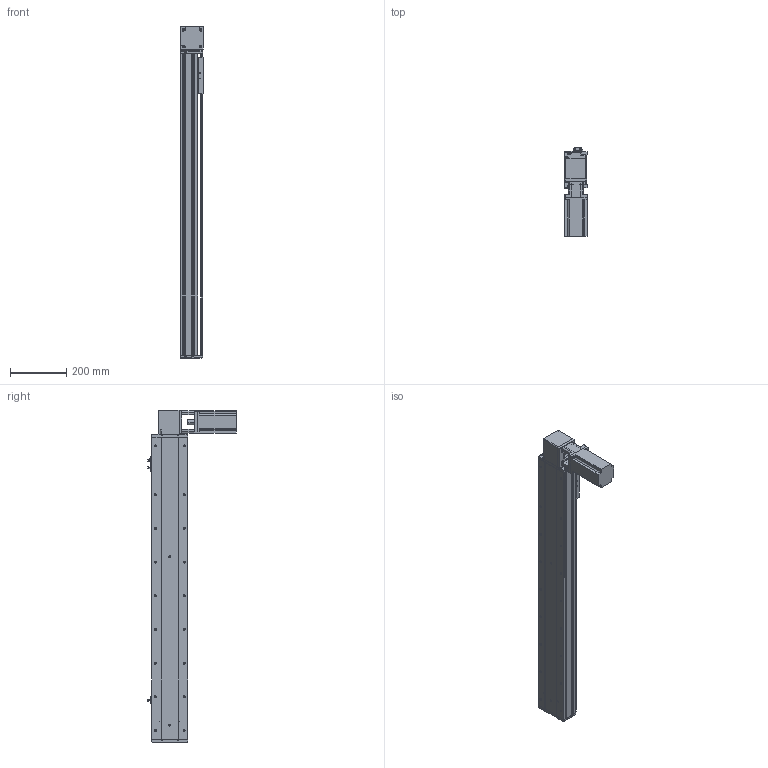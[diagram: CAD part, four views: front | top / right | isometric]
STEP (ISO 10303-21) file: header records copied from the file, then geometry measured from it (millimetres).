
FILE_DESCRIPTION (( 'STEP AP214' ), '1' );
FILE_NAME ('KSD130B-S850-MRT-CM.STEP', '2019-11-16T03:18:22', ( '微软用户' ), ( '微软中国' ), 'SwSTEP 2.0', 'SolidWorks 2014', '' );
FILE_SCHEMA (( 'AUTOMOTIVE_DESIGN' ));
Length unit declared in the file: millimetre
Products named in the file (12): 130宽马达安装板同步带半封闭; 130宽同步带安装座半封闭; 130宽端盖同步带半封闭; 130宽底板半封闭同步带-850行程; KSD130B-S850-MRT-CM; 台达ECMA－C20807AS伺服电机; 130宽马达安装板1-带电机座750W（1）; 覜茼え100遵圉猾敕; U倰嫖萇EEㄜSX672; 130宽安装板同步带带电机座750W; 130宽盖板半封闭同步带-850行程; 130宽马达安装板同步带左-改
Assembly tree (13 placements, depth 2):
  KSD130B-S850-MRT-CM
    130宽底板半封闭同步带-850行程
    130宽端盖同步带半封闭
    130宽同步带安装座半封闭
    130宽马达安装板同步带半封闭
    130宽马达安装板同步带左-改
    130宽盖板半封闭同步带-850行程
    130宽安装板同步带带电机座750W
    U倰嫖萇EEㄜSX672  x3
    覜茼え100遵圉猾敕
    130宽马达安装板1-带电机座750W（1）
    台达ECMA－C20807AS伺服电机
Bounding box: 81 x 316 x 1183 mm (x, y, z)
Volume: 4559435.1 mm3; surface area: 1188678.5 mm2
Topology: 14 solids, 14 shells, 1485 faces, 4212 edges, 2691 vertices
Faces by surface type: cylinder 711, plane 601, cone 173
Entity records: 48359 total; most frequent: CARTESIAN_POINT 8861, DIRECTION 7382, ORIENTED_EDGE 7076, EDGE_CURVE 3538, AXIS2_PLACEMENT_3D 2704, VERTEX_POINT 2315, LINE 1974, VECTOR 1974
